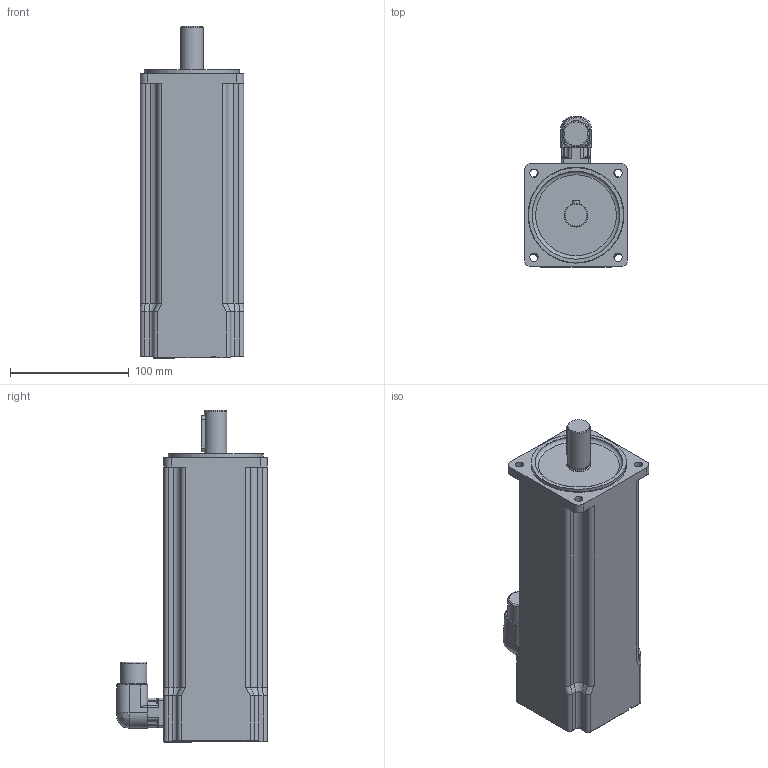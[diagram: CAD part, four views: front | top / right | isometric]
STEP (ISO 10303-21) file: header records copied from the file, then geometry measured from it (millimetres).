
FILE_DESCRIPTION((''),'2;1');
FILE_NAME('C:\Autodesk Vault\AUTODESK_VAULT\CAD\000-FERTIG Motors\BM085\_Gesamtbaugruppen\Step\Standard\21.05.2012_P1\AM8043_xx11-xxxx_21.05.2012.stp','2012-05-21T15:22:24',('KathrinW'),(''),'Autodesk Inventor 2012','Autodesk Inventor 2012','');
FILE_SCHEMA(('CONFIG_CONTROL_DESIGN'));
Length unit declared in the file: millimetre
Products named in the file (4): BM085-VM-01; BM085-VM-00; Intercontec-BEDC110NN00000101000; DIN 6885-A6x6x30
Assembly tree (3 placements, depth 2):
  BM085-VM-01
    BM085-VM-00
    Intercontec-BEDC110NN00000101000
    DIN 6885-A6x6x30
Bounding box: 87 x 126.8 x 279.5 mm (x, y, z)
Volume: 1684320 mm3; surface area: 105369.9 mm2
Topology: 3 solids, 3 shells, 337 faces, 833 edges, 519 vertices
Faces by surface type: plane 174, cylinder 87, bspline 56, torus 17, cone 3
Full cylindrical faces by diameter (mm): 4.8 x4, 7 x4, 18.4 x1, 19 x1, 20 x1, 20.1 x1, 22 x1, 74 x1, 80 x1
Entity records: 10902 total; most frequent: CARTESIAN_POINT 2872, ORIENTED_EDGE 1602, DIRECTION 1519, EDGE_CURVE 801, VERTEX_POINT 518, AXIS2_PLACEMENT_3D 508, VECTOR 503, LINE 503
